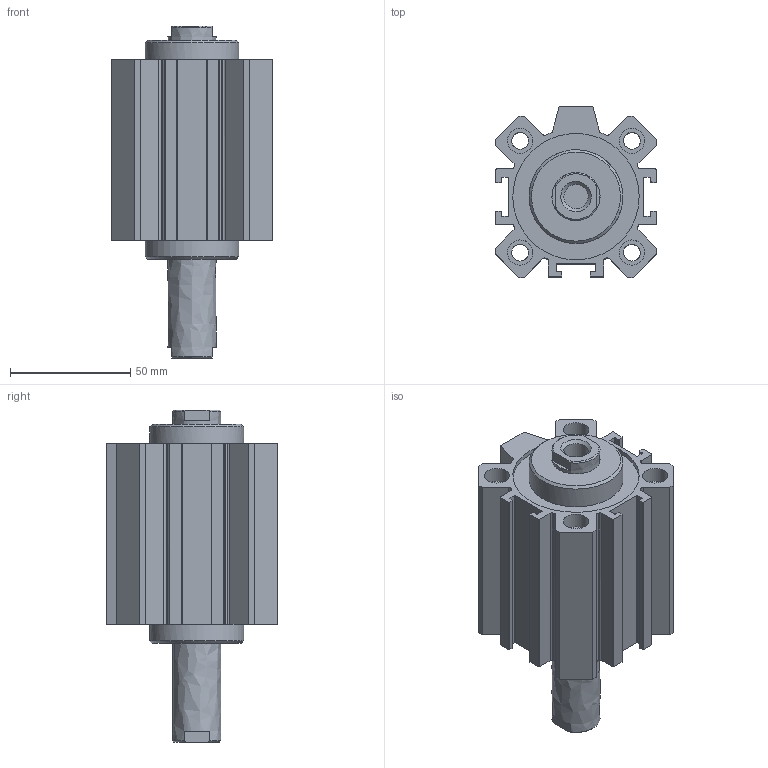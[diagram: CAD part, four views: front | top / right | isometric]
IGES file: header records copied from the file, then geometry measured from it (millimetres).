
Global section: file name: 1514_50_0035; native system: Autodesk Inventor 2014; preprocessor: unknown; author: A. Manieri; date: 20160824.134157; units: millimetre
Bounding box: 67 x 71 x 138 mm (x, y, z)
Volume: 231174.8 mm3; surface area: 74496.8 mm2
Topology: 2 solids, 2 shells, 178 faces, 482 edges, 328 vertices
Faces by surface type: bspline 178
